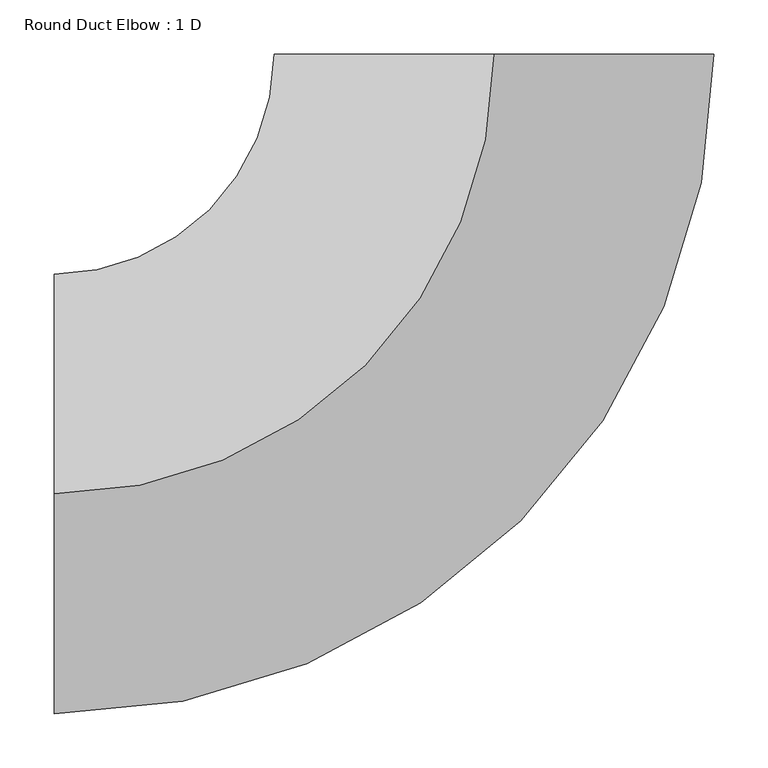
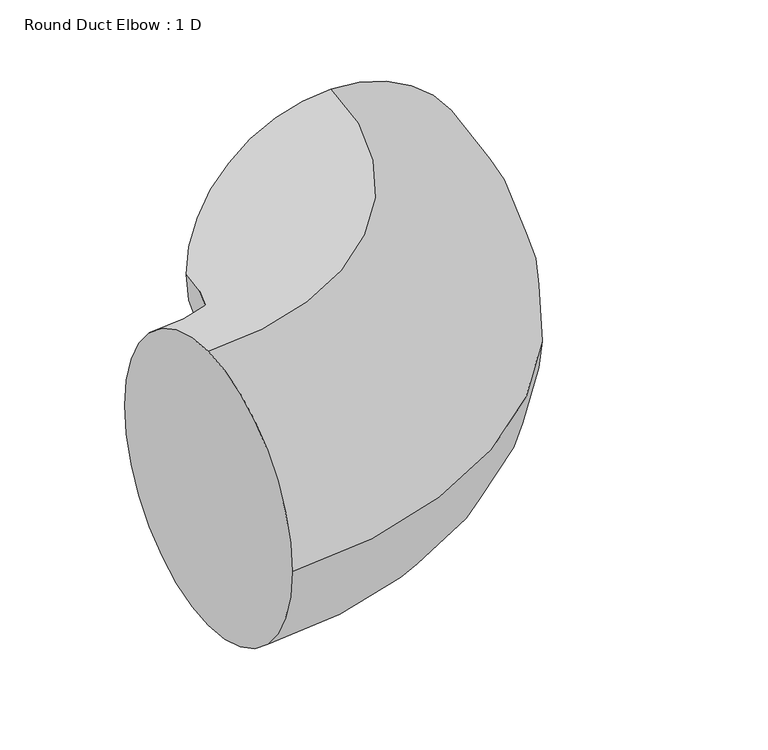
"""IFC4 building model written with IfcOpenShell, lengths in millimetres: duct fitting geometry, Round Duct Elbow : 1 D."""

from ifc_helpers import new_model, si_unit, point, frame, origin, place, context, project, spatial, circle_curve, ellipse_curve, trimmed, source, transform, mapped, element, save
from ifc_brep_helpers import plane_surface, revolved_surface, advanced_brep


def round_duct_elbow_1_d_d8910935(model_context):
    return source(origin(), model_context, "Body", "AdvancedBrep", [
        advanced_brep(
        [(-406.4, 0.0, 203.2), (-406.4, 203.2, 0.0), (-406.4, 0.0, -203.2), (-406.4, -203.2, 0.0), (0.0, 406.4, 203.2), (203.2, 406.4, 0.0), (0.0, 406.4, -203.2), (-203.2, 406.4, 0.0)],
        [
            (0, 1, circle_curve(frame((-406.4, 0.0, 0.0), z_axis=(-1.0, 0.0, 0.0), x_axis=(0.0, 1.0, 0.0)), 203.2)),
            (1, 2, circle_curve(frame((-406.4, 0.0, 0.0), z_axis=(-1.0, 0.0, 0.0), x_axis=(0.0, 1.0, 0.0)), 203.2)),
            (2, 3, circle_curve(frame((-406.4, 0.0, 0.0), z_axis=(-1.0, 0.0, 0.0), x_axis=(0.0, 1.0, 0.0)), 203.2)),
            (3, 0, circle_curve(frame((-406.4, 0.0, 0.0), z_axis=(-1.0, 0.0, 0.0), x_axis=(0.0, 1.0, 0.0)), 203.2)),
            (4, 5, circle_curve(frame((0.0, 406.4, 0.0), z_axis=(0.0, 1.0, 0.0), x_axis=(-1.0, 0.0, 0.0)), 203.2)),
            (5, 6, circle_curve(frame((0.0, 406.4, 0.0), z_axis=(0.0, 1.0, 0.0), x_axis=(-1.0, 0.0, 0.0)), 203.2)),
            (6, 7, circle_curve(frame((0.0, 406.4, 0.0), z_axis=(0.0, 1.0, 0.0), x_axis=(-1.0, 0.0, 0.0)), 203.2)),
            (7, 4, circle_curve(frame((0.0, 406.4, 0.0), z_axis=(0.0, 1.0, 0.0), x_axis=(-1.0, 0.0, 0.0)), 203.2)),
            (7, 1, circle_curve(frame((-406.4, 406.4, 0.0), z_axis=(0.0, 0.0, -1.0), x_axis=(0.0, -1.0, 0.0)), 203.2)),
            (0, 4, circle_curve(frame((-406.4, 406.4, 203.2), z_axis=(0.0, 0.0, 1.0), x_axis=(0.0, -1.0, 0.0)), 406.4)),
            (6, 2, circle_curve(frame((-406.4, 406.4, -203.2), z_axis=(0.0, 0.0, -1.0), x_axis=(0.0, -1.0, 0.0)), 406.4)),
            (5, 3, circle_curve(frame((-406.4, 406.4, 0.0), z_axis=(0.0, 0.0, -1.0), x_axis=(0.0, -1.0, 0.0)), 609.6)),
        ],
        [
            plane_surface(frame((-406.4, 0.0, 0.0), z_axis=(-1.0, 0.0, 0.0), x_axis=(0.0, 0.0, 1.0))),
            plane_surface(frame((0.0, 406.4, 0.0), z_axis=(0.0, 1.0, 0.0), x_axis=(0.0, 0.0, 1.0))),
            revolved_surface(trimmed(ellipse_curve(frame((-406.4, 0.0, 0.0), z_axis=(-1.0, 0.0, 0.0), x_axis=(0.0, 1.0, 0.0)), 203.2, 203.2), [point((-406.4, 0.0, 203.2))], [point((-406.4, 203.2, 0.0))], True, "CARTESIAN"), (-406.4, 406.4, 0.0), (0.0, 0.0, 1.0)),
            revolved_surface(trimmed(ellipse_curve(frame((-406.4, 0.0, 0.0), z_axis=(-1.0, 0.0, 0.0), x_axis=(0.0, 1.0, 0.0)), 203.2, 203.2), [point((-406.4, 203.2, 0.0))], [point((-406.4, 0.0, -203.2))], True, "CARTESIAN"), (-406.4, 406.4, 0.0), (0.0, 0.0, 1.0)),
            revolved_surface(trimmed(ellipse_curve(frame((-406.4, 0.0, 0.0), z_axis=(-1.0, 0.0, 0.0), x_axis=(0.0, 1.0, 0.0)), 203.2, 203.2), [point((-406.4, 0.0, -203.2))], [point((-406.4, -203.2, 0.0))], True, "CARTESIAN"), (-406.4, 406.4, 0.0), (0.0, 0.0, 1.0)),
            revolved_surface(trimmed(ellipse_curve(frame((-406.4, 0.0, 0.0), z_axis=(-1.0, 0.0, 0.0), x_axis=(0.0, 1.0, 0.0)), 203.2, 203.2), [point((-406.4, -203.2, 0.0))], [point((-406.4, 0.0, 203.2))], True, "CARTESIAN"), (-406.4, 406.4, 0.0), (0.0, 0.0, 1.0)),
        ],
        [
            (0, [[1, 2, 3, 4]]),
            (1, [[5, 6, 7, 8]]),
            (2, [[9, -1, 10, -8]]),
            (3, [[11, -2, -9, -7]]),
            (4, [[12, -3, -11, -6]]),
            (5, [[-10, -4, -12, -5]]),
        ],
    ),
        advanced_brep(
        [(-406.4, 0.0, 203.2), (-406.4, 203.2, 0.0), (-406.4, 0.0, -203.2), (-406.4, -203.2, 0.0), (0.0, 406.4, 203.2), (203.2, 406.4, 0.0), (0.0, 406.4, -203.2), (-203.2, 406.4, 0.0)],
        [
            (0, 1, circle_curve(frame((-406.4, 0.0, 0.0), z_axis=(-1.0, 0.0, 0.0), x_axis=(0.0, 1.0, 0.0)), 203.2)),
            (1, 2, circle_curve(frame((-406.4, 0.0, 0.0), z_axis=(-1.0, 0.0, 0.0), x_axis=(0.0, 1.0, 0.0)), 203.2)),
            (2, 3, circle_curve(frame((-406.4, 0.0, 0.0), z_axis=(-1.0, 0.0, 0.0), x_axis=(0.0, 1.0, 0.0)), 203.2)),
            (3, 0, circle_curve(frame((-406.4, 0.0, 0.0), z_axis=(-1.0, 0.0, 0.0), x_axis=(0.0, 1.0, 0.0)), 203.2)),
            (4, 5, circle_curve(frame((0.0, 406.4, 0.0), z_axis=(0.0, 1.0, 0.0), x_axis=(-1.0, 0.0, 0.0)), 203.2)),
            (5, 6, circle_curve(frame((0.0, 406.4, 0.0), z_axis=(0.0, 1.0, 0.0), x_axis=(-1.0, 0.0, 0.0)), 203.2)),
            (6, 7, circle_curve(frame((0.0, 406.4, 0.0), z_axis=(0.0, 1.0, 0.0), x_axis=(-1.0, 0.0, 0.0)), 203.2)),
            (7, 4, circle_curve(frame((0.0, 406.4, 0.0), z_axis=(0.0, 1.0, 0.0), x_axis=(-1.0, 0.0, 0.0)), 203.2)),
            (7, 1, circle_curve(frame((-406.4, 406.4, 0.0), z_axis=(0.0, 0.0, -1.0), x_axis=(0.0, -1.0, 0.0)), 203.2)),
            (0, 4, circle_curve(frame((-406.4, 406.4, 203.2), z_axis=(0.0, 0.0, 1.0), x_axis=(0.0, -1.0, 0.0)), 406.4)),
            (6, 2, circle_curve(frame((-406.4, 406.4, -203.2), z_axis=(0.0, 0.0, -1.0), x_axis=(0.0, -1.0, 0.0)), 406.4)),
            (5, 3, circle_curve(frame((-406.4, 406.4, 0.0), z_axis=(0.0, 0.0, -1.0), x_axis=(0.0, -1.0, 0.0)), 609.6)),
        ],
        [
            plane_surface(frame((-406.4, 0.0, 0.0), z_axis=(-1.0, 0.0, 0.0), x_axis=(0.0, 0.0, 1.0))),
            plane_surface(frame((0.0, 406.4, 0.0), z_axis=(0.0, 1.0, 0.0), x_axis=(0.0, 0.0, 1.0))),
            revolved_surface(trimmed(ellipse_curve(frame((-406.4, 0.0, 0.0), z_axis=(-1.0, 0.0, 0.0), x_axis=(0.0, 1.0, 0.0)), 203.2, 203.2), [point((-406.4, 0.0, 203.2))], [point((-406.4, 203.2, 0.0))], True, "CARTESIAN"), (-406.4, 406.4, 0.0), (0.0, 0.0, 1.0)),
            revolved_surface(trimmed(ellipse_curve(frame((-406.4, 0.0, 0.0), z_axis=(-1.0, 0.0, 0.0), x_axis=(0.0, 1.0, 0.0)), 203.2, 203.2), [point((-406.4, 203.2, 0.0))], [point((-406.4, 0.0, -203.2))], True, "CARTESIAN"), (-406.4, 406.4, 0.0), (0.0, 0.0, 1.0)),
            revolved_surface(trimmed(ellipse_curve(frame((-406.4, 0.0, 0.0), z_axis=(-1.0, 0.0, 0.0), x_axis=(0.0, 1.0, 0.0)), 203.2, 203.2), [point((-406.4, 0.0, -203.2))], [point((-406.4, -203.2, 0.0))], True, "CARTESIAN"), (-406.4, 406.4, 0.0), (0.0, 0.0, 1.0)),
            revolved_surface(trimmed(ellipse_curve(frame((-406.4, 0.0, 0.0), z_axis=(-1.0, 0.0, 0.0), x_axis=(0.0, 1.0, 0.0)), 203.2, 203.2), [point((-406.4, -203.2, 0.0))], [point((-406.4, 0.0, 203.2))], True, "CARTESIAN"), (-406.4, 406.4, 0.0), (0.0, 0.0, 1.0)),
        ],
        [
            (0, [[1, 2, 3, 4]]),
            (1, [[5, 6, 7, 8]]),
            (2, [[9, -1, 10, -8]]),
            (3, [[11, -2, -9, -7]]),
            (4, [[12, -3, -11, -6]]),
            (5, [[-10, -4, -12, -5]]),
        ],
    ),
        advanced_brep(
        [(-406.4, 0.0, 203.2), (-406.4, 203.2, 0.0), (-406.4, 0.0, -203.2), (-406.4, -203.2, 0.0), (0.0, 406.4, 203.2), (203.2, 406.4, 0.0), (0.0, 406.4, -203.2), (-203.2, 406.4, 0.0)],
        [
            (0, 1, circle_curve(frame((-406.4, 0.0, 0.0), z_axis=(-1.0, 0.0, 0.0), x_axis=(0.0, 1.0, 0.0)), 203.2)),
            (1, 2, circle_curve(frame((-406.4, 0.0, 0.0), z_axis=(-1.0, 0.0, 0.0), x_axis=(0.0, 1.0, 0.0)), 203.2)),
            (2, 3, circle_curve(frame((-406.4, 0.0, 0.0), z_axis=(-1.0, 0.0, 0.0), x_axis=(0.0, 1.0, 0.0)), 203.2)),
            (3, 0, circle_curve(frame((-406.4, 0.0, 0.0), z_axis=(-1.0, 0.0, 0.0), x_axis=(0.0, 1.0, 0.0)), 203.2)),
            (4, 5, circle_curve(frame((0.0, 406.4, 0.0), z_axis=(0.0, 1.0, 0.0), x_axis=(-1.0, 0.0, 0.0)), 203.2)),
            (5, 6, circle_curve(frame((0.0, 406.4, 0.0), z_axis=(0.0, 1.0, 0.0), x_axis=(-1.0, 0.0, 0.0)), 203.2)),
            (6, 7, circle_curve(frame((0.0, 406.4, 0.0), z_axis=(0.0, 1.0, 0.0), x_axis=(-1.0, 0.0, 0.0)), 203.2)),
            (7, 4, circle_curve(frame((0.0, 406.4, 0.0), z_axis=(0.0, 1.0, 0.0), x_axis=(-1.0, 0.0, 0.0)), 203.2)),
            (7, 1, circle_curve(frame((-406.4, 406.4, 0.0), z_axis=(0.0, 0.0, -1.0), x_axis=(0.0, -1.0, 0.0)), 203.2)),
            (0, 4, circle_curve(frame((-406.4, 406.4, 203.2), z_axis=(0.0, 0.0, 1.0), x_axis=(0.0, -1.0, 0.0)), 406.4)),
            (6, 2, circle_curve(frame((-406.4, 406.4, -203.2), z_axis=(0.0, 0.0, -1.0), x_axis=(0.0, -1.0, 0.0)), 406.4)),
            (5, 3, circle_curve(frame((-406.4, 406.4, 0.0), z_axis=(0.0, 0.0, -1.0), x_axis=(0.0, -1.0, 0.0)), 609.6)),
        ],
        [
            plane_surface(frame((-406.4, 0.0, 0.0), z_axis=(-1.0, 0.0, 0.0), x_axis=(0.0, 0.0, 1.0))),
            plane_surface(frame((0.0, 406.4, 0.0), z_axis=(0.0, 1.0, 0.0), x_axis=(0.0, 0.0, 1.0))),
            revolved_surface(trimmed(ellipse_curve(frame((-406.4, 0.0, 0.0), z_axis=(-1.0, 0.0, 0.0), x_axis=(0.0, 1.0, 0.0)), 203.2, 203.2), [point((-406.4, 0.0, 203.2))], [point((-406.4, 203.2, 0.0))], True, "CARTESIAN"), (-406.4, 406.4, 0.0), (0.0, 0.0, 1.0)),
            revolved_surface(trimmed(ellipse_curve(frame((-406.4, 0.0, 0.0), z_axis=(-1.0, 0.0, 0.0), x_axis=(0.0, 1.0, 0.0)), 203.2, 203.2), [point((-406.4, 203.2, 0.0))], [point((-406.4, 0.0, -203.2))], True, "CARTESIAN"), (-406.4, 406.4, 0.0), (0.0, 0.0, 1.0)),
            revolved_surface(trimmed(ellipse_curve(frame((-406.4, 0.0, 0.0), z_axis=(-1.0, 0.0, 0.0), x_axis=(0.0, 1.0, 0.0)), 203.2, 203.2), [point((-406.4, 0.0, -203.2))], [point((-406.4, -203.2, 0.0))], True, "CARTESIAN"), (-406.4, 406.4, 0.0), (0.0, 0.0, 1.0)),
            revolved_surface(trimmed(ellipse_curve(frame((-406.4, 0.0, 0.0), z_axis=(-1.0, 0.0, 0.0), x_axis=(0.0, 1.0, 0.0)), 203.2, 203.2), [point((-406.4, -203.2, 0.0))], [point((-406.4, 0.0, 203.2))], True, "CARTESIAN"), (-406.4, 406.4, 0.0), (0.0, 0.0, 1.0)),
        ],
        [
            (0, [[1, 2, 3, 4]]),
            (1, [[5, 6, 7, 8]]),
            (2, [[9, -1, 10, -8]]),
            (3, [[11, -2, -9, -7]]),
            (4, [[12, -3, -11, -6]]),
            (5, [[-10, -4, -12, -5]]),
        ],
    ),
    ])


if __name__ == "__main__":
    model = new_model("IFC4")
    model_context = context("Model", 3, world=origin())
    ifc_project = project(units=[si_unit("LENGTHUNIT", "METRE", prefix="MILLI")], contexts=[model_context])
    site = spatial("IfcSite", under=ifc_project)
    building = spatial("IfcBuilding", under=site)
    placement = place(None, origin())
    round_duct_elbow_1_d_shape = round_duct_elbow_1_d_d8910935(model_context)
    element("IfcDuctFitting", 1, ObjectType="Round Duct Elbow : 1 D", at=placement, inside=building, context=model_context, shape_type="MappedRepresentation", body=[
        mapped(round_duct_elbow_1_d_shape, transform((0.0, 0.0, 0.0), x_axis=(1.0, 0.0, 0.0), y_axis=(0.0, 1.0, 0.0), z_axis=(0.0, 0.0, 1.0))),
    ])
    save(model, "model.ifc")
